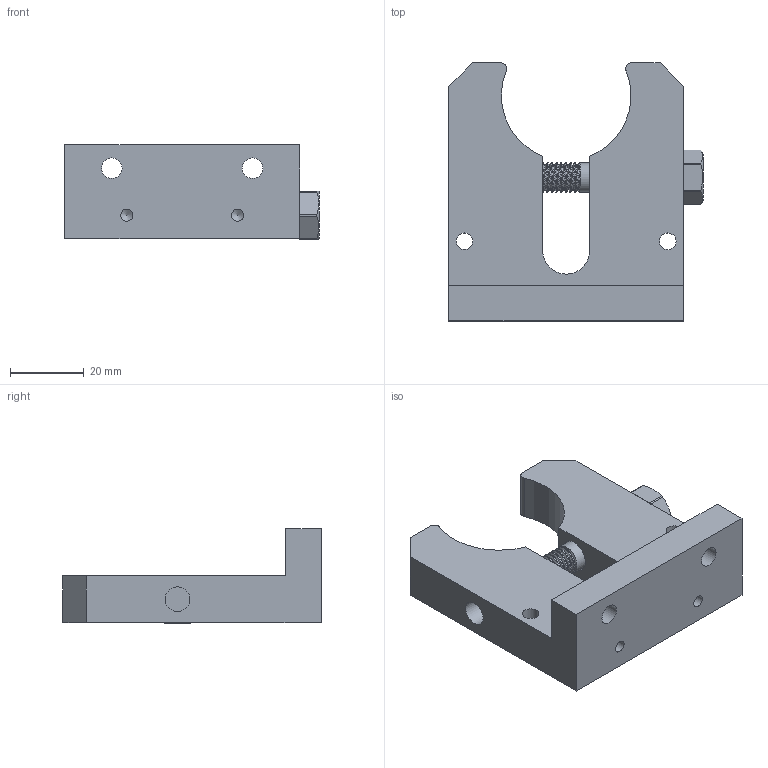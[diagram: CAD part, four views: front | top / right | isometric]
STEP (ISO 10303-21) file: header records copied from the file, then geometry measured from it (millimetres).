
FILE_DESCRIPTION((''),'2;1');
FILE_NAME('C:\3D Projects\3D Standard Parts\97242 Rev C Valve Mounting Bracket Assembly.stp','2008-07-22T14:25:42',('patch'),(''),'Autodesk Inventor 2009','Autodesk Inventor 2009','');
FILE_SCHEMA(('AUTOMOTIVE_DESIGN { 1 0 10303 214 1 1 1 1 }'));
Length unit declared in the file: inch
Products named in the file (3): 97242 Rev B Valve Mounting Bracket Assembly; 8900059 Rev C Valve Mount Bracket; 8900177 Regular Hex Bolt M8 x 1.25 x 50mm Long
Assembly tree (2 placements, depth 2):
  97242 Rev B Valve Mounting Bracket Assembly
    8900059 Rev C Valve Mount Bracket
    8900177 Regular Hex Bolt M8 x 1.25 x 50mm Long
Bounding box: 68.8 x 69.85 x 25.55 mm (x, y, z)
Volume: 48392.4 mm3; surface area: 16686 mm2
Topology: 2 solids, 2 shells, 122 faces, 341 edges, 226 vertices
Faces by surface type: cylinder 47, cone 40, plane 24, bspline 10, torus 1
Full cylindrical faces by diameter (mm): 6.964 x17, 8 x16
Entity records: 5736 total; most frequent: CARTESIAN_POINT 3128, ORIENTED_EDGE 470, DIRECTION 460, EDGE_CURVE 235, EDGE_LOOP 216, AXIS2_PLACEMENT_3D 202, VERTEX_POINT 199, FACE_OUTER_BOUND 122
